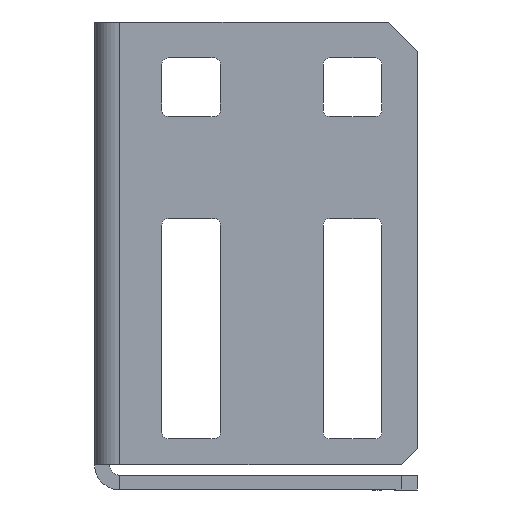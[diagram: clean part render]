
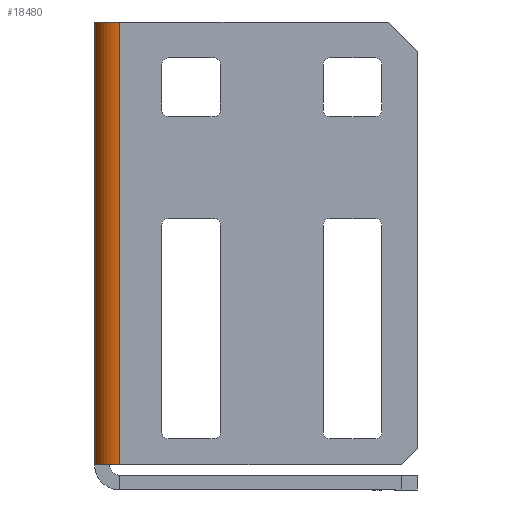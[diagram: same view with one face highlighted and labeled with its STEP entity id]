
A CAD part, left-side view. The second image highlights one B-rep face of the part: STEP entity #18480.
In plain terms, the highlighted cylindrical face has radius 1.981 mm (diameter 3.962 mm), a partial arc.
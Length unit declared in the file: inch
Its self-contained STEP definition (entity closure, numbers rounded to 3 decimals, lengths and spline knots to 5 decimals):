
#18480 = ADVANCED_FACE ( 'NONE', ( #34586 ), #34583, .T. ) ;
#18481 = EDGE_LOOP ( 'NONE', ( #18482, #18483, #18484, #18485 ) ) ;
#18482 = ORIENTED_EDGE ( 'NONE', *, *, #64591, .F. ) ;
#18483 = ORIENTED_EDGE ( 'NONE', *, *, #18552, .F. ) ;
#18484 = ORIENTED_EDGE ( 'NONE', *, *, #63853, .F. ) ;
#18485 = ORIENTED_EDGE ( 'NONE', *, *, #18496, .F. ) ;
#18496 = EDGE_CURVE ( 'NONE', #64157, #63814, #34624, .T. ) ;
#18552 = EDGE_CURVE ( 'NONE', #63856, #64592, #34729, .T. ) ;
#34580 = DIRECTION ( 'NONE',  ( -1., 0., 0. ) ) ;
#34581 = DIRECTION ( 'NONE',  ( 0., 0., -1. ) ) ;
#34582 = AXIS2_PLACEMENT_3D ( 'NONE', #34585, #34581, #34580 ) ;
#34583 = CYLINDRICAL_SURFACE ( 'NONE', #34582, 0.078 ) ;
#34585 = CARTESIAN_POINT ( 'NONE',  ( -15.14649, -0.032, -2.76768 ) ) ;
#34586 = FACE_OUTER_BOUND ( 'NONE', #18481, .T. ) ;
#34620 = DIRECTION ( 'NONE',  ( 0., 1., 0. ) ) ;
#34621 = DIRECTION ( 'NONE',  ( 0., 0., 1. ) ) ;
#34622 = CARTESIAN_POINT ( 'NONE',  ( -15.14649, -0.032, -1.39568 ) ) ;
#34623 = AXIS2_PLACEMENT_3D ( 'NONE', #34622, #34621, #34620 ) ;
#34624 = CIRCLE ( 'NONE', #34623, 0.078 ) ;
#34725 = DIRECTION ( 'NONE',  ( 0., 1., 0. ) ) ;
#34726 = DIRECTION ( 'NONE',  ( 0., 0., -1. ) ) ;
#34727 = CARTESIAN_POINT ( 'NONE',  ( -15.14649, -0.032, -2.76768 ) ) ;
#34728 = AXIS2_PLACEMENT_3D ( 'NONE', #34727, #34726, #34725 ) ;
#34729 = CIRCLE ( 'NONE', #34728, 0.078 ) ;
#52807 = CARTESIAN_POINT ( 'NONE',  ( -15.22449, -0.032, -1.39568 ) ) ;
#52853 = CARTESIAN_POINT ( 'NONE',  ( -15.22449, -0.032, -2.76768 ) ) ;
#52859 = DIRECTION ( 'NONE',  ( 0., 0., -1. ) ) ;
#52860 = VECTOR ( 'NONE', #52859, 39.37008 ) ;
#52861 = CARTESIAN_POINT ( 'NONE',  ( -15.22449, -0.032, -1.39568 ) ) ;
#52862 = LINE ( 'NONE', #52861, #52860 ) ;
#53392 = CARTESIAN_POINT ( 'NONE',  ( -15.14649, 0.046, -1.39568 ) ) ;
#54371 = CARTESIAN_POINT ( 'NONE',  ( -15.14649, 0.046, -2.76768 ) ) ;
#54372 = DIRECTION ( 'NONE',  ( 0., 0., 1. ) ) ;
#54373 = VECTOR ( 'NONE', #54372, 39.37008 ) ;
#54374 = CARTESIAN_POINT ( 'NONE',  ( -15.14649, 0.046, -2.76768 ) ) ;
#54375 = LINE ( 'NONE', #54374, #54373 ) ;
#63814 = VERTEX_POINT ( 'NONE', #52807 ) ;
#63853 = EDGE_CURVE ( 'NONE', #63814, #63856, #52862, .T. ) ;
#63856 = VERTEX_POINT ( 'NONE', #52853 ) ;
#64157 = VERTEX_POINT ( 'NONE', #53392 ) ;
#64591 = EDGE_CURVE ( 'NONE', #64592, #64157, #54375, .T. ) ;
#64592 = VERTEX_POINT ( 'NONE', #54371 ) ;
